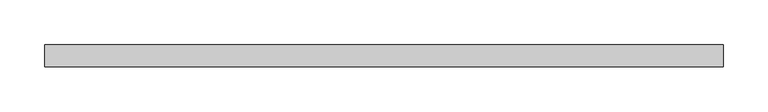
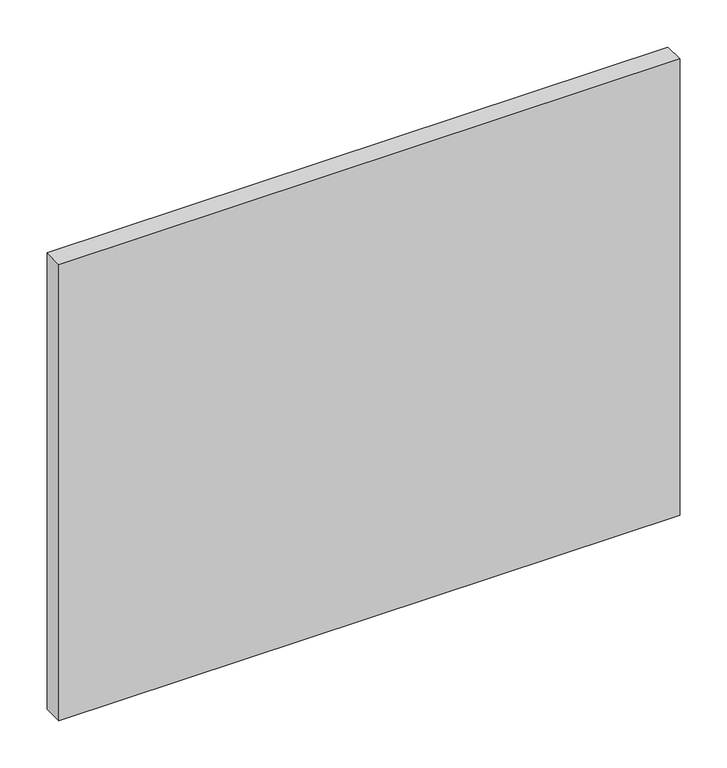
"""IFC4 building model written with IfcOpenShell, lengths in millimetres: plate geometry, 系统嵌板 : 玻璃."""

from ifc_helpers import new_model, si_unit, origin, origin_with_axes, place, context, project, spatial, polyline, outline, extrude, source, transform, mapped, element, save


def plate_9c331fab(model_context):
    return source(origin(), model_context, "Body", "SweptSolid", [
        extrude(outline(polyline([(380.0, -12.5), (-380.0, -12.5), (-380.0, 12.5), (380.0, 12.5), (380.0, -12.5)])), origin_with_axes(), (0.0, 0.0, 1.0), 590.0),
    ])


if __name__ == "__main__":
    model = new_model("IFC4")
    model_context = context("Model", 3, world=origin())
    ifc_project = project(units=[si_unit("LENGTHUNIT", "METRE", prefix="MILLI")], contexts=[model_context])
    site = spatial("IfcSite", under=ifc_project)
    building = spatial("IfcBuilding", under=site)
    placement = place(None, origin())
    plate_shape = plate_9c331fab(model_context)
    element("IfcPlate", 1, ObjectType="系统嵌板 : 玻璃", at=placement, inside=building, context=model_context, shape_type="MappedRepresentation", body=[
        mapped(plate_shape, transform((0.0, 0.0, 0.0), x_axis=(1.0, 0.0, 0.0), y_axis=(0.0, 1.0, 0.0), z_axis=(0.0, 0.0, 1.0))),
    ])
    save(model, "model.ifc")
